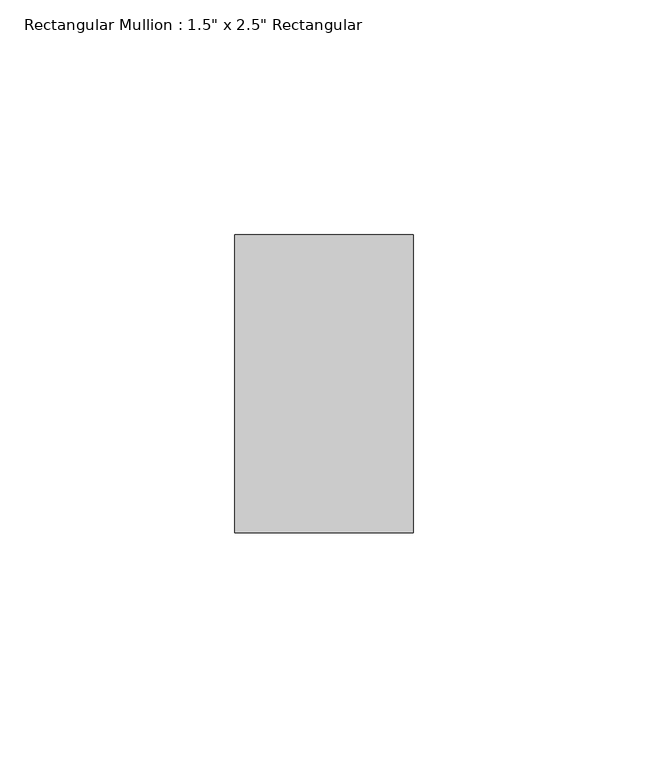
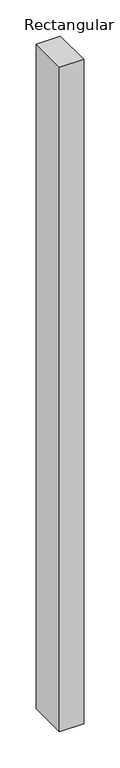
"""IFC4 building model written with IfcOpenShell, lengths in millimetres: member geometry."""

from ifc_helpers import new_model, si_unit, frame, origin, place, context, project, spatial, polyline, outline, extrude, source, transform, mapped, element, save


def member_501cf4ca(model_context):
    return source(origin(), model_context, "Body", "SweptSolid", [
        extrude(outline(polyline([(0.0, 31.75), (0.0, -31.75), (-38.1, -31.75), (-38.1, 31.75), (0.0, 31.75)])), frame((0.0, 0.0, -1114.4249997), z_axis=(0.0, 0.0, 1.0), x_axis=(1.0, 0.0, 0.0)), (0.0, 0.0, 1.0), 1114.4249997),
    ])


if __name__ == "__main__":
    model = new_model("IFC4")
    model_context = context("Model", 3, world=origin())
    ifc_project = project(units=[si_unit("LENGTHUNIT", "METRE", prefix="MILLI")], contexts=[model_context])
    site = spatial("IfcSite", under=ifc_project)
    building = spatial("IfcBuilding", under=site)
    placement = place(None, origin())
    member_shape = member_501cf4ca(model_context)
    element("IfcMember", 1, ObjectType="Rectangular Mullion : 1.5\" x 2.5\" Rectangular", at=placement, inside=building, context=model_context, shape_type="MappedRepresentation", body=[
        mapped(member_shape, transform((0.0, 0.0, 0.0), x_axis=(1.0, 0.0, 0.0), y_axis=(0.0, 1.0, 0.0), z_axis=(0.0, 0.0, 1.0))),
    ])
    save(model, "model.ifc")
